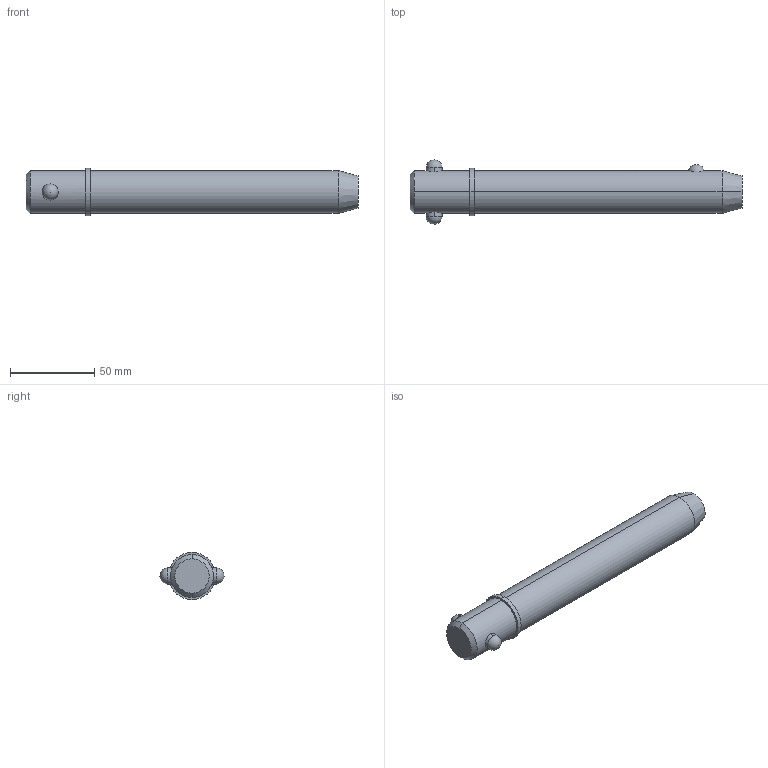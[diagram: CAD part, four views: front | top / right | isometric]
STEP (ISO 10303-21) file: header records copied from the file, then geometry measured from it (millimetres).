
FILE_DESCRIPTION (( 'STEP AP203' ), '1' );
FILE_NAME ('33018.W1050.step', '2024-11-19T17:24:53', ( '' ), ( '' ), 'SwSTEP 2.0', 'SolidWorks 2019', '' );
FILE_SCHEMA (( 'CONFIG_CONTROL_DESIGN' ));
Length unit declared in the file: millimetre
Products named in the file (3): 33018.W1050; Part1_33018.W1050; Part2_33018.W1050
Assembly tree (2 placements, depth 2):
  33018.W1050
    Part1_33018.W1050
    Part2_33018.W1050
Bounding box: 196.85 x 38.1 x 27.94 mm (x, y, z)
Volume: 99270.8 mm3; surface area: 18293.2 mm2
Topology: 2 solids, 2 shells, 22 faces, 47 edges, 30 vertices
Faces by surface type: cylinder 10, sphere 4, cone 4, plane 4
Entity records: 1071 total; most frequent: CARTESIAN_POINT 314, DIRECTION 110, ORIENTED_EDGE 82, AXIS2_PLACEMENT_3D 48, EDGE_CURVE 41, EDGE_LOOP 27, VERTEX_POINT 26, PERSON_AND_ORGANIZATION 26
